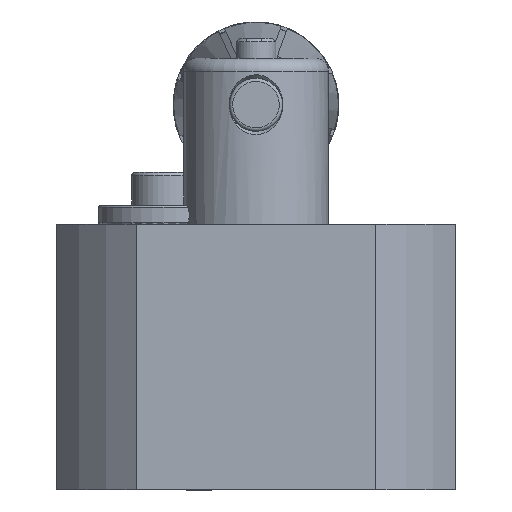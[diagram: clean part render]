
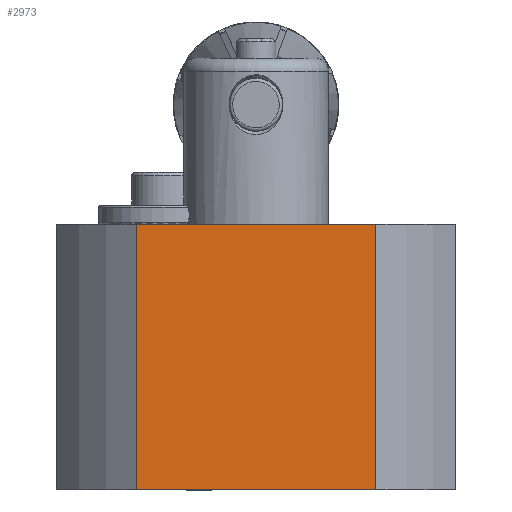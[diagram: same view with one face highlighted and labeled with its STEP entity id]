
A CAD part, left-side view. The second image highlights one B-rep face of the part: STEP entity #2973.
In plain terms, the highlighted planar face has unit normal (-1, 0, 0).
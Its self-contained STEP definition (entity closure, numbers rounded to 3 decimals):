
#220=LINE('',#4460,#350);
#221=LINE('',#4464,#351);
#222=LINE('',#4467,#352);
#223=LINE('',#4468,#353);
#350=VECTOR('',#3699,1000.);
#351=VECTOR('',#3704,1000.);
#352=VECTOR('',#3705,1000.);
#353=VECTOR('',#3706,1000.);
#770=ORIENTED_EDGE('',*,*,#1105,.T.);
#771=ORIENTED_EDGE('',*,*,#1106,.T.);
#772=ORIENTED_EDGE('',*,*,#1103,.T.);
#773=ORIENTED_EDGE('',*,*,#1107,.F.);
#1103=EDGE_CURVE('',#1311,#1310,#220,.T.);
#1105=EDGE_CURVE('',#1312,#1313,#221,.F.);
#1106=EDGE_CURVE('',#1313,#1311,#222,.T.);
#1107=EDGE_CURVE('',#1312,#1310,#223,.T.);
#1310=VERTEX_POINT('',#4459);
#1311=VERTEX_POINT('',#4461);
#1312=VERTEX_POINT('',#4465);
#1313=VERTEX_POINT('',#4466);
#1594=EDGE_LOOP('',(#770,#771,#772,#773));
#1798=FACE_BOUND('',#1594,.T.);
#1907=PLANE('',#3188);
#2973=ADVANCED_FACE('',(#1798),#1907,.F.);
#3188=AXIS2_PLACEMENT_3D('',#4463,#3702,#3703);
#3699=DIRECTION('',(0.,0.,1.));
#3702=DIRECTION('',(1.,0.,0.));
#3703=DIRECTION('',(0.,0.,-1.));
#3704=DIRECTION('',(0.,0.,1.));
#3705=DIRECTION('',(0.,-1.,0.));
#3706=DIRECTION('',(0.,-1.,0.));
#4459=CARTESIAN_POINT('',(-24.,-18.028,42.5));
#4460=CARTESIAN_POINT('',(-24.,-18.028,22.5));
#4461=CARTESIAN_POINT('',(-24.,-18.028,2.5));
#4463=CARTESIAN_POINT('',(-24.,50.,50.));
#4464=CARTESIAN_POINT('',(-24.,18.028,22.5));
#4465=CARTESIAN_POINT('',(-24.,18.028,42.5));
#4466=CARTESIAN_POINT('',(-24.,18.028,2.5));
#4467=CARTESIAN_POINT('',(-24.,50.,2.5));
#4468=CARTESIAN_POINT('',(-24.,50.,42.5));
